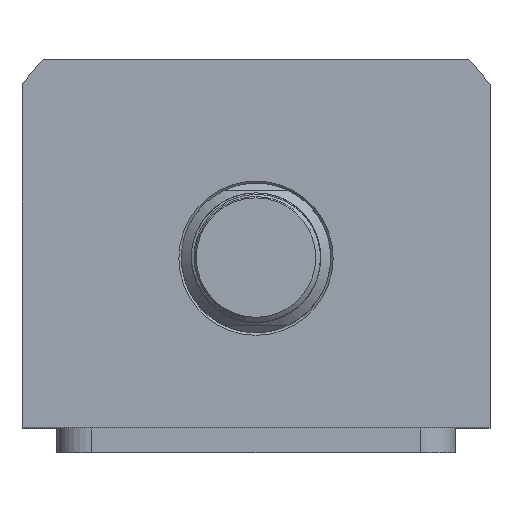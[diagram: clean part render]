
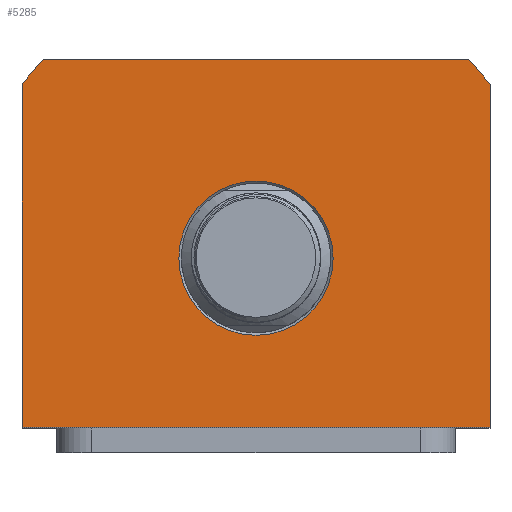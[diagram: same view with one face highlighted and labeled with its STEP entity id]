
A CAD part, top view. The second image highlights one B-rep face of the part: STEP entity #5285.
In plain terms, the highlighted planar face has unit normal (0, 0, 1).
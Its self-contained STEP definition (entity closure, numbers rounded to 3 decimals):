
#2476=PLANE('',#12213);
#2795=LINE('',#20059,#3650);
#2814=LINE('',#20734,#3669);
#2825=LINE('',#20763,#3680);
#2840=LINE('',#20825,#3695);
#3650=VECTOR('',#12739,1.);
#3669=VECTOR('',#12872,1.);
#3680=VECTOR('',#12891,1.);
#3695=VECTOR('',#12950,1.);
#5285=ADVANCED_FACE('',(#5795,#5796),#2476,.T.);
#5795=FACE_BOUND('',#6021,.T.);
#5796=FACE_BOUND('',#6022,.T.);
#6021=EDGE_LOOP('',(#7426));
#6022=EDGE_LOOP('',(#7427,#7428,#7429,#7430,#7431,#7432));
#7426=ORIENTED_EDGE('',*,*,#10812,.T.);
#7427=ORIENTED_EDGE('',*,*,#10897,.T.);
#7428=ORIENTED_EDGE('',*,*,#10805,.T.);
#7429=ORIENTED_EDGE('',*,*,#10935,.T.);
#7430=ORIENTED_EDGE('',*,*,#10911,.T.);
#7431=ORIENTED_EDGE('',*,*,#10927,.T.);
#7432=ORIENTED_EDGE('',*,*,#10940,.T.);
#9751=VERTEX_POINT('',#20029);
#9766=VERTEX_POINT('',#20058);
#9773=VERTEX_POINT('',#20075);
#9850=VERTEX_POINT('',#20730);
#9865=VERTEX_POINT('',#20762);
#9866=VERTEX_POINT('',#20764);
#9875=VERTEX_POINT('',#20792);
#10805=EDGE_CURVE('',#9751,#9766,#2795,.T.);
#10812=EDGE_CURVE('',#9773,#9773,#11973,.T.);
#10897=EDGE_CURVE('',#9850,#9751,#2814,.T.);
#10911=EDGE_CURVE('',#9866,#9865,#2825,.T.);
#10927=EDGE_CURVE('',#9865,#9875,#12015,.T.);
#10935=EDGE_CURVE('',#9766,#9866,#12017,.T.);
#10940=EDGE_CURVE('',#9875,#9850,#2840,.T.);
#11973=CIRCLE('',#12133,15.5);
#12015=CIRCLE('',#12202,58.5);
#12017=CIRCLE('',#12207,58.5);
#12133=AXIS2_PLACEMENT_3D('',#20074,#12752,#12753);
#12202=AXIS2_PLACEMENT_3D('',#20793,#12923,#12924);
#12207=AXIS2_PLACEMENT_3D('',#20816,#12938,#12939);
#12213=AXIS2_PLACEMENT_3D('',#20838,#12960,#12961);
#12739=DIRECTION('',(0.,1.,0.));
#12752=DIRECTION('',(0.,0.,-1.));
#12753=DIRECTION('',(1.,0.,0.));
#12872=DIRECTION('',(1.,0.,0.));
#12891=DIRECTION('',(-1.,0.,0.));
#12923=DIRECTION('',(0.,0.,1.));
#12924=DIRECTION('',(1.,0.,0.));
#12938=DIRECTION('',(0.,0.,1.));
#12939=DIRECTION('',(1.,0.,0.));
#12950=DIRECTION('',(0.,-1.,0.));
#12960=DIRECTION('',(0.,0.,1.));
#12961=DIRECTION('',(-1.,0.,0.));
#20029=CARTESIAN_POINT('',(47.,-34.,50.));
#20058=CARTESIAN_POINT('',(47.,34.832,50.));
#20059=CARTESIAN_POINT('',(47.,34.832,50.));
#20074=CARTESIAN_POINT('',(0.,0.,50.));
#20075=CARTESIAN_POINT('',(15.5,0.,50.));
#20730=CARTESIAN_POINT('',(-47.,-34.,50.));
#20734=CARTESIAN_POINT('',(47.,-34.,50.));
#20762=CARTESIAN_POINT('',(-42.688,40.,50.));
#20763=CARTESIAN_POINT('',(-42.688,40.,50.));
#20764=CARTESIAN_POINT('',(42.688,40.,50.));
#20792=CARTESIAN_POINT('',(-47.,34.832,50.));
#20793=CARTESIAN_POINT('',(0.,0.,50.));
#20816=CARTESIAN_POINT('',(0.,0.,50.));
#20825=CARTESIAN_POINT('',(-47.,-34.,50.));
#20838=CARTESIAN_POINT('',(0.,0.,50.));
